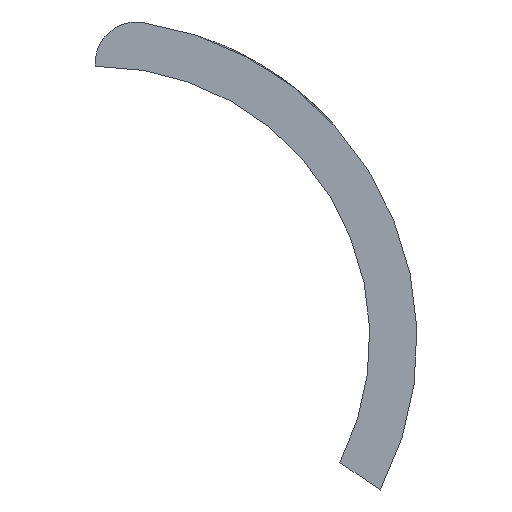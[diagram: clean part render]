
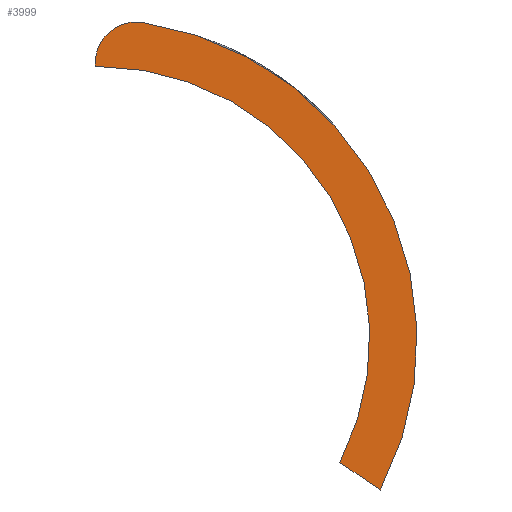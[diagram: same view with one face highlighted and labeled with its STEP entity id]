
A CAD part, left-side view. The second image highlights one B-rep face of the part: STEP entity #3999.
In plain terms, the highlighted planar face has unit normal (-1, 0, 0).
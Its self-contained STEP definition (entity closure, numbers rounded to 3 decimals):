
#3755=CARTESIAN_POINT('',(-8.9,540.65,-64.502));
#3756=VERTEX_POINT('',#3755);
#3763=CARTESIAN_POINT('',(-8.9,530.3,-84.85));
#3764=VERTEX_POINT('',#3763);
#3765=CARTESIAN_POINT('',(-8.9,542.7,-78.351));
#3766=DIRECTION('',(1.,-0.,-0.));
#3767=DIRECTION('',(0.,0.,1.));
#3768=AXIS2_PLACEMENT_3D('',#3765,#3766,#3767);
#3769=CIRCLE('',#3768,14.);
#3770=EDGE_CURVE('',#3756,#3764,#3769,.T.);
#3832=CARTESIAN_POINT('',(-8.9,532.064,-83.653));
#3833=VERTEX_POINT('',#3832);
#3834=CARTESIAN_POINT('',(-8.9,530.3,-84.85));
#3835=DIRECTION('',(-0.,0.828,0.561));
#3836=VECTOR('',#3835,2.132);
#3837=LINE('',#3834,#3836);
#3838=EDGE_CURVE('',#3764,#3833,#3837,.T.);
#3862=CARTESIAN_POINT('',(-8.9,542.586,-66.421));
#3863=VERTEX_POINT('',#3862);
#3872=CARTESIAN_POINT('',(-8.9,542.712,-66.422));
#3873=VERTEX_POINT('',#3872);
#3874=CARTESIAN_POINT('',(-8.9,542.586,-78.249));
#3875=DIRECTION('',(1.,-0.,-0.));
#3876=DIRECTION('',(0.,0.,1.));
#3877=AXIS2_PLACEMENT_3D('',#3874,#3875,#3876);
#3878=CIRCLE('',#3877,11.829);
#3879=EDGE_CURVE('',#3873,#3863,#3878,.T.);
#3904=CARTESIAN_POINT('',(-8.9,542.713,-66.302));
#3905=VERTEX_POINT('',#3904);
#3906=CARTESIAN_POINT('',(-8.9,542.713,-66.302));
#3907=DIRECTION('',(0.,-0.011,-1.));
#3908=VECTOR('',#3907,0.12);
#3909=LINE('',#3906,#3908);
#3910=EDGE_CURVE('',#3905,#3873,#3909,.T.);
#3965=CARTESIAN_POINT('',(-8.9,0.,0.));
#3966=DIRECTION('',(-1.,0.,0.));
#3967=DIRECTION('',(0.,0.,-1.));
#3968=AXIS2_PLACEMENT_3D('',#3965,#3966,#3967);
#3969=PLANE('',#3968);
#3970=ORIENTED_EDGE('',*,*,#3770,.F.);
#3971=CARTESIAN_POINT('',(-8.9,540.913,-64.482));
#3972=VERTEX_POINT('',#3971);
#3973=CARTESIAN_POINT('',(-8.9,540.913,-66.282));
#3974=DIRECTION('',(-1.,0.,0.));
#3975=DIRECTION('',(0.,0.,1.));
#3976=AXIS2_PLACEMENT_3D('',#3973,#3974,#3975);
#3977=CIRCLE('',#3976,1.8);
#3978=EDGE_CURVE('',#3756,#3972,#3977,.T.);
#3979=ORIENTED_EDGE('',*,*,#3978,.T.);
#3980=CARTESIAN_POINT('',(-8.9,540.913,-66.282));
#3981=DIRECTION('',(-1.,0.,0.));
#3982=DIRECTION('',(0.,0.,1.));
#3983=AXIS2_PLACEMENT_3D('',#3980,#3981,#3982);
#3984=CIRCLE('',#3983,1.8);
#3985=EDGE_CURVE('',#3972,#3905,#3984,.T.);
#3986=ORIENTED_EDGE('',*,*,#3985,.T.);
#3987=ORIENTED_EDGE('',*,*,#3910,.T.);
#3988=ORIENTED_EDGE('',*,*,#3879,.T.);
#3989=CARTESIAN_POINT('',(-8.9,542.586,-78.249));
#3990=DIRECTION('',(1.,-0.,-0.));
#3991=DIRECTION('',(0.,0.,1.));
#3992=AXIS2_PLACEMENT_3D('',#3989,#3990,#3991);
#3993=CIRCLE('',#3992,11.829);
#3994=EDGE_CURVE('',#3863,#3833,#3993,.T.);
#3995=ORIENTED_EDGE('',*,*,#3994,.T.);
#3996=ORIENTED_EDGE('',*,*,#3838,.F.);
#3997=EDGE_LOOP('',(#3970,#3979,#3986,#3987,#3988,#3995,#3996));
#3998=FACE_BOUND('',#3997,.T.);
#3999=ADVANCED_FACE('',(#3998),#3969,.T.);
